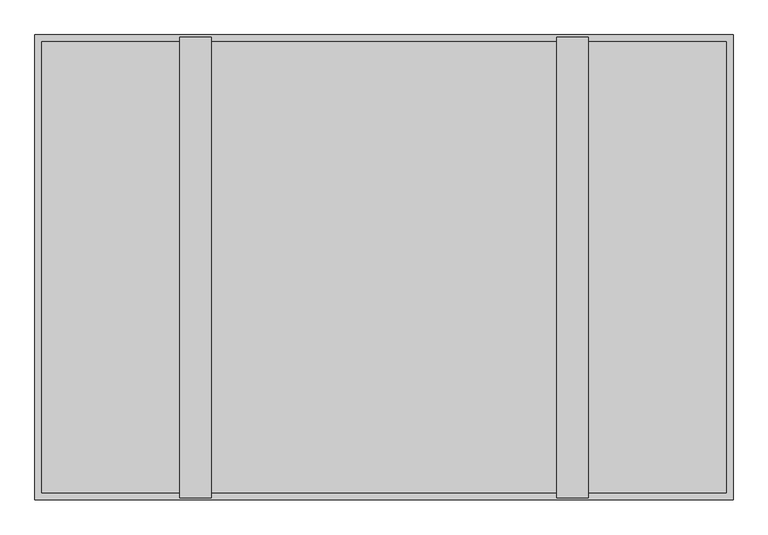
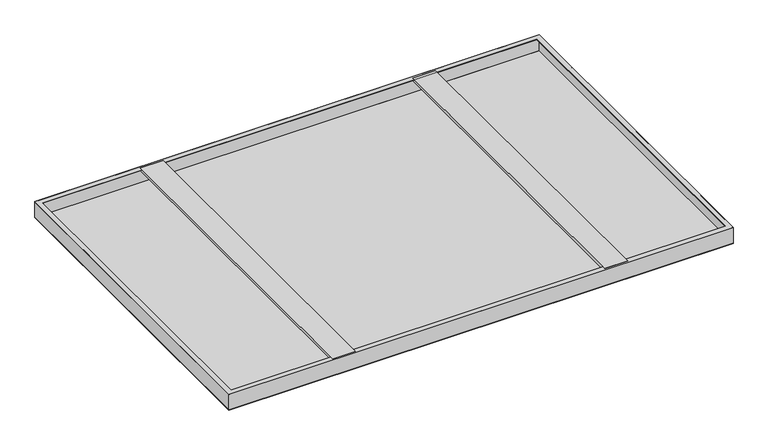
"""IFC4 building model written with IfcOpenShell, lengths in millimetres: proxy geometry, durlum_dur_SOLO_RHOMBOS_TYPE1 : durlum_dur_SOLO_RHOMBOS_TYPE1."""

from ifc_helpers import new_model, si_unit, frame, origin, origin_with_axes, place, context, project, spatial, polyline, outline, extrude, source, transform, mapped, element, save


def generic_models_0eccee6e(model_context):
    return source(origin(), model_context, "Body", "SweptSolid", [
        extrude(outline(polyline([(50.0, 371.1818895), (41.2547795, 371.1818895), (41.2547795, 373.7012938), (47.2031398, 373.7012938), (47.2031398, 436.2987062), (41.2547795, 436.2987062), (41.2547795, 438.8181105), (50.0, 438.8181105), (50.0, 371.1818895)])), frame((0.0, -495.0, 0.0), z_axis=(0.0, 1.0, 0.0), x_axis=(0.0, 0.0, 1.0)), (0.0, 0.0, 1.0), 990.0),
        extrude(outline(polyline([(50.0, -438.8181105), (41.2547795, -438.8181105), (41.2547795, -436.2987062), (47.2031398, -436.2987062), (47.2031398, -373.7012938), (41.2547795, -373.7012938), (41.2547795, -371.1818895), (50.0, -371.1818895), (50.0, -438.8181105)])), frame((0.0, -495.0, 0.0), z_axis=(0.0, 1.0, 0.0), x_axis=(0.0, 0.0, 1.0)), (0.0, 0.0, 1.0), 990.0),
        extrude(outline(polyline([(750.0, 500.0), (750.0, -500.0), (-750.0, -500.0), (-750.0, 500.0), (750.0, 500.0)]), holes=[polyline([(-735.0, 485.0), (-735.0, -485.0), (735.0, -485.0), (735.0, 485.0), (-735.0, 485.0)])]), frame((0.0, 0.0, 49.4), z_axis=(0.0, 0.0, 1.0), x_axis=(1.0, 0.0, 0.0)), (0.0, 0.0, 1.0), 0.6),
        extrude(outline(polyline([(750.0, 500.0), (750.0, -500.0), (-750.0, -500.0), (-750.0, 500.0), (750.0, 500.0)]), holes=[polyline([(749.0, 499.0), (-749.0, 499.0), (-749.0, -499.0), (749.0, -499.0), (749.0, 499.0)])]), frame((0.0, 0.0, 1.0), z_axis=(0.0, 0.0, 1.0), x_axis=(1.0, 0.0, 0.0)), (0.0, 0.0, 1.0), 49.0),
        extrude(outline(polyline([(750.0, 500.0), (750.0, -500.0), (-750.0, -500.0), (-750.0, 500.0), (750.0, 500.0)]), holes=[polyline([(749.0, 499.0), (-749.0, 499.0), (-749.0, -499.0), (749.0, -499.0), (749.0, 499.0)])]), origin_with_axes(), (0.0, 0.0, 1.0), 1.0),
        extrude(outline(polyline([(749.0, 499.0), (749.0, -499.0), (-749.0, -499.0), (-749.0, 499.0), (749.0, 499.0)])), origin_with_axes(), (0.0, 0.0, 1.0), 1.0),
    ])


if __name__ == "__main__":
    model = new_model("IFC4")
    model_context = context("Model", 3, world=origin())
    ifc_project = project(units=[si_unit("LENGTHUNIT", "METRE", prefix="MILLI")], contexts=[model_context])
    site = spatial("IfcSite", under=ifc_project)
    building = spatial("IfcBuilding", under=site)
    placement = place(None, origin())
    generic_models_shape = generic_models_0eccee6e(model_context)
    element("IfcBuildingElementProxy", 1, Name="durlum_dur_SOLO_RHOMBOS_TYPE1 : durlum_dur_SOLO_RHOMBOS_TYPE1", ObjectType="durlum_dur_SOLO_RHOMBOS_TYPE1 : durlum_dur_SOLO_RHOMBOS_TYPE1", at=placement, inside=building, context=model_context, shape_type="MappedRepresentation", body=[
        mapped(generic_models_shape, transform((0.0, 0.0, 0.0), x_axis=(1.0, 0.0, 0.0), y_axis=(0.0, 1.0, 0.0), z_axis=(0.0, 0.0, 1.0))),
    ])
    save(model, "model.ifc")
